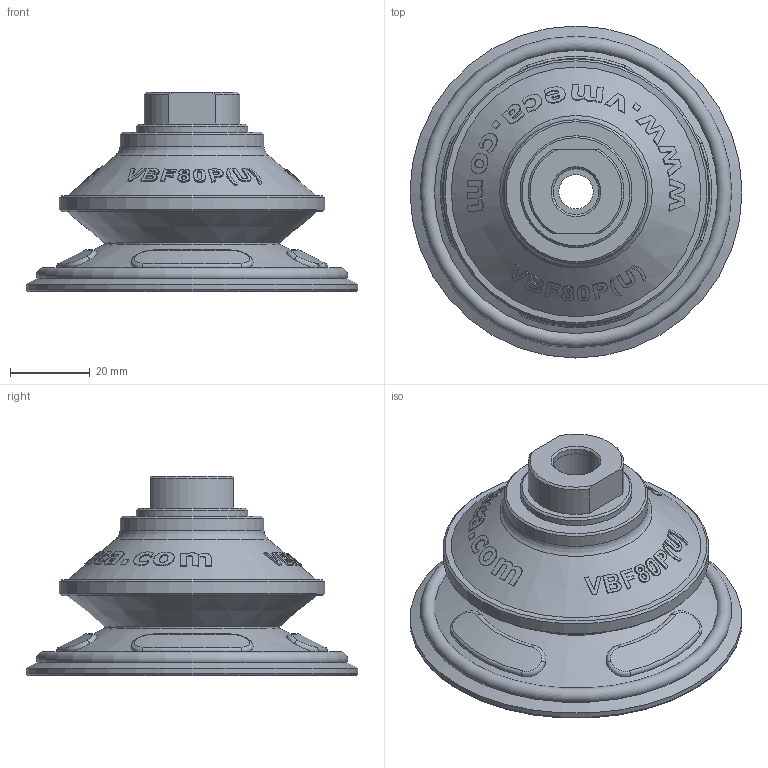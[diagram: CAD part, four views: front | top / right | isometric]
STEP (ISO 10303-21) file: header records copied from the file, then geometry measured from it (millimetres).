
FILE_DESCRIPTION( ( 'Unknown' ), '1' );
FILE_NAME( 'D:/濛機奢濰/Vacuum Pads/VBF/VBF80/STP/VBF80 P(U)_14F.stp', 'Unknown', ( 'Unknown' ), ( 'Unknown' ), 'XStep 1.0', 'Unknown', ' ' );
FILE_SCHEMA( ( 'automotive_design' ) );
Length unit declared in the file: millimetre
Products named in the file (1): 1
Bounding box: 83 x 83 x 50 mm (x, y, z)
Volume: 45154.7 mm3; surface area: 26291.8 mm2
Topology: 1 solids, 1 shells, 263 faces, 641 edges, 421 vertices
Faces by surface type: bspline 174, cone 51, torus 15, plane 12, cylinder 11
Full cylindrical faces by diameter (mm): 8.6 x1, 11.2 x1, 11.445 x2, 28 x1, 33 x1, 36 x1, 66.5 x1, 83 x1
Entity records: 21340 total; most frequent: CARTESIAN_POINT 14674, ORIENTED_EDGE 1194, EDGE_CURVE 597, B_SPLINE_CURVE_WITH_KNOTS 504, VERTEX_POINT 415, DIRECTION 358, EDGE_LOOP 344, FACE_OUTER_BOUND 285
